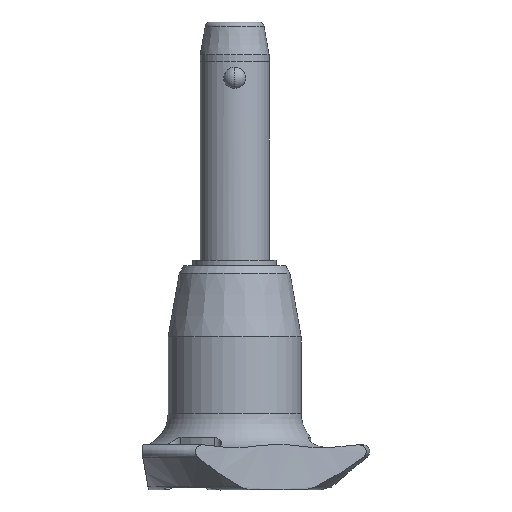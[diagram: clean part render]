
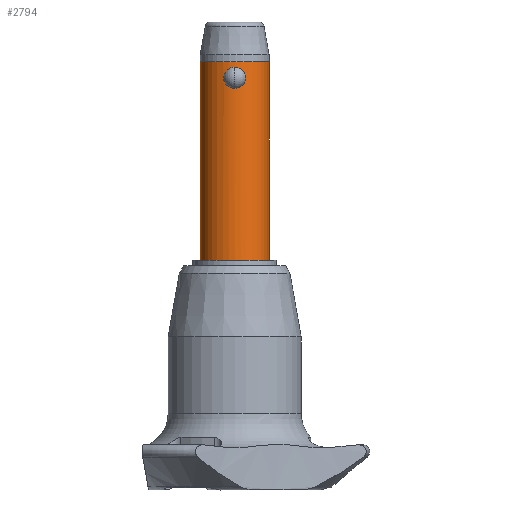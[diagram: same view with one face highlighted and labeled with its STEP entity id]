
A CAD part, front view. The second image highlights one B-rep face of the part: STEP entity #2794.
In plain terms, the highlighted cylindrical face has radius 5 mm (diameter 10 mm), a partial arc.
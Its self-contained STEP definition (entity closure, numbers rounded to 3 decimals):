
#28 = CARTESIAN_POINT ( 'NONE',  ( 0.208, -5., 3.033 ) ) ;
#40 = CARTESIAN_POINT ( 'NONE',  ( 0.792, -4.938, 2.844 ) ) ;
#50 = CARTESIAN_POINT ( 'NONE',  ( -1.594, -4.739, 1.312 ) ) ;
#56 = CARTESIAN_POINT ( 'NONE',  ( 0.7, -4.952, 2.888 ) ) ;
#63 = CARTESIAN_POINT ( 'NONE',  ( -1.047, -4.89, 2.676 ) ) ;
#89 = CARTESIAN_POINT ( 'NONE',  ( 0., 0., -25. ) ) ;
#213 = CARTESIAN_POINT ( 'NONE',  ( 0.205, -5., 0. ) ) ;
#228 = CARTESIAN_POINT ( 'NONE',  ( 1.272, -4.838, 2.47 ) ) ;
#234 = ORIENTED_EDGE ( 'NONE', *, *, #1727, .T. ) ;
#250 = CARTESIAN_POINT ( 'NONE',  ( -0.7, -4.952, 2.888 ) ) ;
#253 = AXIS2_PLACEMENT_3D ( 'NONE', #524, #485, #1369 ) ;
#256 = CARTESIAN_POINT ( 'NONE',  ( 1.56, -4.751, 1.103 ) ) ;
#264 = CARTESIAN_POINT ( 'NONE',  ( -0.412, -4.987, 2.997 ) ) ;
#275 = CARTESIAN_POINT ( 'NONE',  ( -1.604, -4.736, 1.416 ) ) ;
#313 = CARTESIAN_POINT ( 'NONE',  ( -5., 0., -25. ) ) ;
#314 = CYLINDRICAL_SURFACE ( 'NONE', #1107, 5. ) ;
#331 = CARTESIAN_POINT ( 'NONE',  ( 5., 0., -25. ) ) ;
#368 = CARTESIAN_POINT ( 'NONE',  ( -0.792, -4.938, 0.19 ) ) ;
#436 = CARTESIAN_POINT ( 'NONE',  ( -5., 0., 3.84 ) ) ;
#443 = DIRECTION ( 'NONE',  ( 0., 0., 1. ) ) ;
#464 = VERTEX_POINT ( 'NONE', #2150 ) ;
#485 = DIRECTION ( 'NONE',  ( 0., 0., -1. ) ) ;
#493 = CARTESIAN_POINT ( 'NONE',  ( 0.412, -4.987, 2.996 ) ) ;
#503 = DIRECTION ( 'NONE',  ( 0., 0., 1. ) ) ;
#508 = EDGE_CURVE ( 'NONE', #677, #2832, #1792, .T. ) ;
#516 = CARTESIAN_POINT ( 'NONE',  ( -1.197, -4.855, 2.539 ) ) ;
#524 = CARTESIAN_POINT ( 'NONE',  ( 0., 0., -25. ) ) ;
#576 = CARTESIAN_POINT ( 'NONE',  ( 1.196, -4.855, 0.493 ) ) ;
#586 = DIRECTION ( 'NONE',  ( 0., 0., 1. ) ) ;
#642 = VECTOR ( 'NONE', #2771, 1000. ) ;
#669 = CARTESIAN_POINT ( 'NONE',  ( 1.519, -4.764, 2.021 ) ) ;
#677 = VERTEX_POINT ( 'NONE', #2350 ) ;
#706 = CARTESIAN_POINT ( 'NONE',  ( -1.56, -4.751, 1.931 ) ) ;
#717 = CARTESIAN_POINT ( 'NONE',  ( -1.394, -4.802, 0.731 ) ) ;
#766 = CARTESIAN_POINT ( 'NONE',  ( -0.966, -4.907, 0.296 ) ) ;
#791 = CARTESIAN_POINT ( 'NONE',  ( 0.699, -4.952, 0.144 ) ) ;
#797 = CARTESIAN_POINT ( 'NONE',  ( 0., -5., 0. ) ) ;
#823 = DIRECTION ( 'NONE',  ( 1., 0., 0. ) ) ;
#916 = CARTESIAN_POINT ( 'NONE',  ( -1.383, -4.805, 2.299 ) ) ;
#941 = CARTESIAN_POINT ( 'NONE',  ( -0.208, -5., 3.033 ) ) ;
#956 = CARTESIAN_POINT ( 'NONE',  ( 0., -5., 3.033 ) ) ;
#991 = CARTESIAN_POINT ( 'NONE',  ( -0.699, -4.952, 0.145 ) ) ;
#1016 = LINE ( 'NONE', #313, #642 ) ;
#1040 = CARTESIAN_POINT ( 'NONE',  ( 0.792, -4.938, 0.19 ) ) ;
#1102 = VECTOR ( 'NONE', #586, 1000. ) ;
#1107 = AXIS2_PLACEMENT_3D ( 'NONE', #89, #503, #1387 ) ;
#1118 = CARTESIAN_POINT ( 'NONE',  ( 1.604, -4.736, 1.308 ) ) ;
#1130 = CARTESIAN_POINT ( 'NONE',  ( -1.264, -4.838, 2.464 ) ) ;
#1162 = CARTESIAN_POINT ( 'NONE',  ( -1.551, -4.753, 1.11 ) ) ;
#1182 = ORIENTED_EDGE ( 'NONE', *, *, #1185, .F. ) ;
#1185 = EDGE_CURVE ( 'NONE', #1450, #464, #1309, .T. ) ;
#1195 = CARTESIAN_POINT ( 'NONE',  ( -1.047, -4.89, 0.357 ) ) ;
#1253 = EDGE_LOOP ( 'NONE', ( #2250, #1182, #234, #2188 ) ) ;
#1309 = CIRCLE ( 'NONE', #253, 5. ) ;
#1323 = CARTESIAN_POINT ( 'NONE',  ( 1.604, -4.736, 1.619 ) ) ;
#1369 = DIRECTION ( 'NONE',  ( 1., 0., 0. ) ) ;
#1387 = DIRECTION ( 'NONE',  ( 1., 0., 0. ) ) ;
#1410 = CARTESIAN_POINT ( 'NONE',  ( -0.205, -5., 0. ) ) ;
#1436 = ORIENTED_EDGE ( 'NONE', *, *, #2035, .F. ) ;
#1450 = VERTEX_POINT ( 'NONE', #1632 ) ;
#1455 = CARTESIAN_POINT ( 'NONE',  ( -0.412, -4.987, 0.037 ) ) ;
#1457 = ORIENTED_EDGE ( 'NONE', *, *, #508, .F. ) ;
#1582 = CARTESIAN_POINT ( 'NONE',  ( 0., -5., 3.033 ) ) ;
#1598 = CARTESIAN_POINT ( 'NONE',  ( 0.966, -4.907, 2.738 ) ) ;
#1603 = CARTESIAN_POINT ( 'NONE',  ( -1.272, -4.838, 0.564 ) ) ;
#1632 = CARTESIAN_POINT ( 'NONE',  ( 5., 0., -25. ) ) ;
#1727 = EDGE_CURVE ( 'NONE', #1450, #2359, #2777, .T. ) ;
#1736 = CARTESIAN_POINT ( 'NONE',  ( 0., 0., 3.84 ) ) ;
#1787 = B_SPLINE_CURVE_WITH_KNOTS ( 'NONE', 3,
 ( #2703, #941, #264, #250, #2278, #2681, #63, #516, #1130, #916, #2692, #706, #1791, #275, #50, #1162, #1815, #717, #1603, #1195, #766, #368, #991, #1455, #1410, #797 ),
 .UNSPECIFIED., .F., .F.,
 ( 4, 2, 2, 2, 2, 2, 2, 2, 2, 2, 2, 2, 4 ),
 ( 0., 0.001, 0.001, 0.001, 0.002, 0.002, 0.002, 0.003, 0.003, 0.004, 0.004, 0.004, 0.005 ),
 .UNSPECIFIED. ) ;
#1791 = CARTESIAN_POINT ( 'NONE',  ( -1.604, -4.736, 1.724 ) ) ;
#1792 = B_SPLINE_CURVE_WITH_KNOTS ( 'NONE', 3,
 ( #2184, #213, #1933, #791, #1040, #2556, #2134, #576, #1964, #2415, #2217, #256, #1118, #1323, #1995, #2838, #669, #1808, #228, #2244, #1598, #40, #56, #493, #28, #1582 ),
 .UNSPECIFIED., .F., .F.,
 ( 4, 2, 2, 2, 2, 2, 2, 2, 2, 2, 2, 2, 4 ),
 ( 0.005, 0.006, 0.006, 0.006, 0.006, 0.007, 0.007, 0.008, 0.008, 0.009, 0.009, 0.009, 0.01 ),
 .UNSPECIFIED. ) ;
#1808 = CARTESIAN_POINT ( 'NONE',  ( 1.395, -4.802, 2.301 ) ) ;
#1815 = CARTESIAN_POINT ( 'NONE',  ( -1.519, -4.764, 1.013 ) ) ;
#1855 = FACE_BOUND ( 'NONE', #2744, .T. ) ;
#1885 = CIRCLE ( 'NONE', #2165, 5. ) ;
#1933 = CARTESIAN_POINT ( 'NONE',  ( 0.412, -4.987, 0.037 ) ) ;
#1950 = VERTEX_POINT ( 'NONE', #436 ) ;
#1964 = CARTESIAN_POINT ( 'NONE',  ( 1.265, -4.838, 0.57 ) ) ;
#1995 = CARTESIAN_POINT ( 'NONE',  ( 1.594, -4.739, 1.721 ) ) ;
#2008 = CARTESIAN_POINT ( 'NONE',  ( 5., 0., 3.84 ) ) ;
#2035 = EDGE_CURVE ( 'NONE', #2832, #677, #1787, .T. ) ;
#2091 = EDGE_CURVE ( 'NONE', #464, #1950, #1016, .T. ) ;
#2134 = CARTESIAN_POINT ( 'NONE',  ( 1.047, -4.89, 0.356 ) ) ;
#2150 = CARTESIAN_POINT ( 'NONE',  ( -5., 0., -25. ) ) ;
#2165 = AXIS2_PLACEMENT_3D ( 'NONE', #1736, #443, #823 ) ;
#2184 = CARTESIAN_POINT ( 'NONE',  ( 0., -5., 0. ) ) ;
#2188 = ORIENTED_EDGE ( 'NONE', *, *, #2587, .F. ) ;
#2217 = CARTESIAN_POINT ( 'NONE',  ( 1.434, -4.79, 0.822 ) ) ;
#2244 = CARTESIAN_POINT ( 'NONE',  ( 1.048, -4.889, 2.676 ) ) ;
#2250 = ORIENTED_EDGE ( 'NONE', *, *, #2091, .F. ) ;
#2278 = CARTESIAN_POINT ( 'NONE',  ( -0.791, -4.938, 2.844 ) ) ;
#2350 = CARTESIAN_POINT ( 'NONE',  ( 0., -5., 0. ) ) ;
#2359 = VERTEX_POINT ( 'NONE', #2008 ) ;
#2415 = CARTESIAN_POINT ( 'NONE',  ( 1.384, -4.805, 0.735 ) ) ;
#2483 = FACE_OUTER_BOUND ( 'NONE', #1253, .T. ) ;
#2556 = CARTESIAN_POINT ( 'NONE',  ( 0.966, -4.907, 0.296 ) ) ;
#2587 = EDGE_CURVE ( 'NONE', #1950, #2359, #1885, .T. ) ;
#2681 = CARTESIAN_POINT ( 'NONE',  ( -0.965, -4.907, 2.738 ) ) ;
#2692 = CARTESIAN_POINT ( 'NONE',  ( -1.435, -4.79, 2.209 ) ) ;
#2703 = CARTESIAN_POINT ( 'NONE',  ( 0., -5., 3.033 ) ) ;
#2744 = EDGE_LOOP ( 'NONE', ( #1436, #1457 ) ) ;
#2771 = DIRECTION ( 'NONE',  ( 0., 0., 1. ) ) ;
#2777 = LINE ( 'NONE', #331, #1102 ) ;
#2794 = ADVANCED_FACE ( 'NONE', ( #2483, #1855 ), #314, .T. ) ;
#2832 = VERTEX_POINT ( 'NONE', #956 ) ;
#2838 = CARTESIAN_POINT ( 'NONE',  ( 1.551, -4.753, 1.922 ) ) ;
